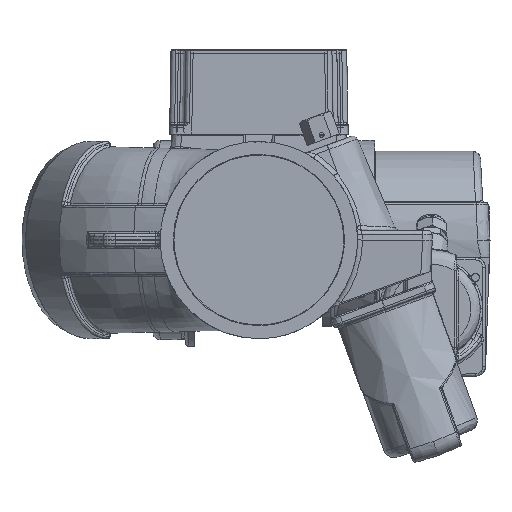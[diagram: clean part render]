
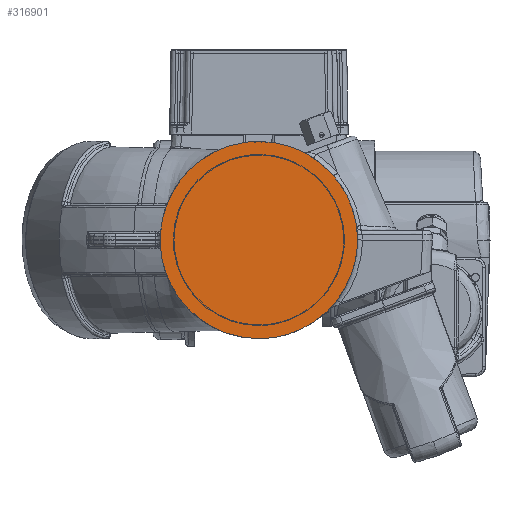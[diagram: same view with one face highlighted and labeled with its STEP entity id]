
A CAD part, front view. The second image highlights one B-rep face of the part: STEP entity #316901.
In plain terms, the highlighted planar face has unit normal (0, 1, 0).
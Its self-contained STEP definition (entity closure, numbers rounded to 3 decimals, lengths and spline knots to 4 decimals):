
#11643 = EDGE_CURVE ( 'NONE', #104023, #147115, #178197, .T. ) ;
#17398 = FACE_OUTER_BOUND ( 'NONE', #105946, .T. ) ;
#18312 = CARTESIAN_POINT ( 'NONE',  ( -2.53, -4.0475, 2.53 ) ) ;
#20704 = CARTESIAN_POINT ( 'NONE',  ( 0., -4.0475, -2.5 ) ) ;
#25796 = CARTESIAN_POINT ( 'NONE',  ( 2.5, -4.0475, 0. ) ) ;
#42471 = CARTESIAN_POINT ( 'NONE',  ( 0., -4.0475, -2.5 ) ) ;
#43522 = CARTESIAN_POINT ( 'NONE',  ( -2.4862, -4.0475, -1.4747 ) ) ;
#44826 = CARTESIAN_POINT ( 'NONE',  ( 0., -4.0475, 2.5 ) ) ;
#47430 = DIRECTION ( 'NONE',  ( 0., 0., -1. ) ) ;
#50486 = CARTESIAN_POINT ( 'NONE',  ( 1.4645, -4.0475, -2.5 ) ) ;
#68287 = CARTESIAN_POINT ( 'NONE',  ( -2.5138, -4.0475, 1.4518 ) ) ;
#93069 = CARTESIAN_POINT ( 'NONE',  ( 0., -4.0475, 2.5 ) ) ;
#104023 = VERTEX_POINT ( 'NONE', #44826 ) ;
#105946 = EDGE_LOOP ( 'NONE', ( #247037, #120652 ) ) ;
#117284 = CARTESIAN_POINT ( 'NONE',  ( 2.5, -4.0475, 1.4645 ) ) ;
#120652 = ORIENTED_EDGE ( 'NONE', *, *, #11643, .T. ) ;
#147115 = VERTEX_POINT ( 'NONE', #20704 ) ;
#148477 = CARTESIAN_POINT ( 'NONE',  ( 1.4645, -4.0475, 2.5 ) ) ;
#161433 = AXIS2_PLACEMENT_3D ( 'NONE', #18312, #190568, #47430 ) ;
#161961 = EDGE_CURVE ( 'NONE', #147115, #104023, #247076, .T. ) ;
#173274 = CARTESIAN_POINT ( 'NONE',  ( 0., -4.0475, 2.5 ) ) ;
#178197 =( BOUNDED_CURVE ( )  B_SPLINE_CURVE ( 3, ( #173274, #148477, #117284, #25796, #198046, #50486, #222817 ),
 .UNSPECIFIED., .F., .F. ) 
 B_SPLINE_CURVE_WITH_KNOTS ( ( 4, 3, 4 ),
 ( 0., 0.0992, 0.1985 ),
 .UNSPECIFIED. ) 
 CURVE ( )  GEOMETRIC_REPRESENTATION_ITEM ( )  RATIONAL_B_SPLINE_CURVE ( ( 1., 0.805, 0.805, 1., 0.805, 0.805, 1. ) ) 
 REPRESENTATION_ITEM ( '' )  );
#190568 = DIRECTION ( 'NONE',  ( 0., -1., 0. ) ) ;
#198046 = CARTESIAN_POINT ( 'NONE',  ( 2.5, -4.0475, -1.4645 ) ) ;
#214278 = PLANE ( 'NONE',  #161433 ) ;
#215860 = CARTESIAN_POINT ( 'NONE',  ( -2.4999, -4.0475, -0.0236 ) ) ;
#222817 = CARTESIAN_POINT ( 'NONE',  ( 0., -4.0475, -2.5 ) ) ;
#231122 = CARTESIAN_POINT ( 'NONE',  ( -1.4559, -4.0475, -2.5 ) ) ;
#240607 = CARTESIAN_POINT ( 'NONE',  ( -1.4754, -4.0475, 2.5 ) ) ;
#247037 = ORIENTED_EDGE ( 'NONE', *, *, #161961, .T. ) ;
#247076 =( BOUNDED_CURVE ( )  B_SPLINE_CURVE ( 3, ( #42471, #231122, #43522, #215860, #68287, #240607, #93069 ),
 .UNSPECIFIED., .F., .F. ) 
 B_SPLINE_CURVE_WITH_KNOTS ( ( 4, 3, 4 ),
 ( 0., 0.0986, 0.1985 ),
 .UNSPECIFIED. ) 
 CURVE ( )  GEOMETRIC_REPRESENTATION_ITEM ( )  RATIONAL_B_SPLINE_CURVE ( ( 0.992, 0.803, 0.805, 1., 0.803, 0.803, 1. ) ) 
 REPRESENTATION_ITEM ( '' )  );
#316901 = ADVANCED_FACE ( 'NONE', ( #17398 ), #214278, .F. ) ;
